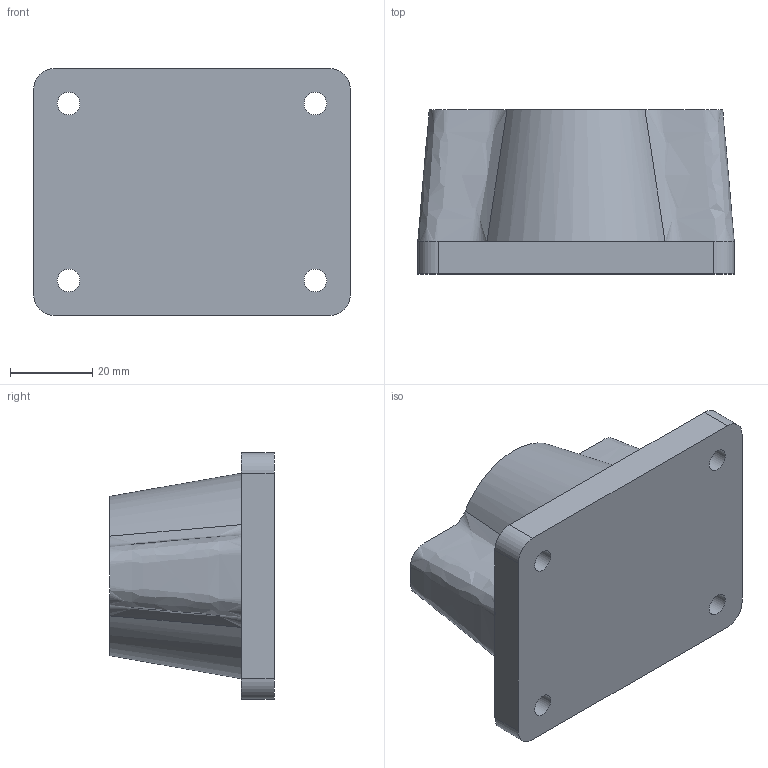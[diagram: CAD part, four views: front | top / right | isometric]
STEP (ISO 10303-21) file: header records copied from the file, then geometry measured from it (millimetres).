
FILE_DESCRIPTION( ( 'STEP AP214' ), '1' );
FILE_NAME( 'p:/temp/worker_16/temp/exporttempdir_4544_765_ZHe0R/format_0/105928 SCG 1.stp', '2021-05-11T08:23:21', ( 'License CC BY-ND 4.0' ), ( 'CADENAS' ), ' ', 'PARTsolutions', ' ' );
FILE_SCHEMA( ( 'AUTOMOTIVE_DESIGN { 1 0 10303 214 1 1 1 1 }' ) );
Length unit declared in the file: millimetre
Products named in the file (1): _105928 SCG 1
Bounding box: 77 x 40 x 60 mm (x, y, z)
Volume: 101940.4 mm3; surface area: 17083.7 mm2
Topology: 1 solids, 1 shells, 20 faces, 74 edges, 56 vertices
Faces by surface type: plane 8, cylinder 8, bspline 4
Full cylindrical faces by diameter (mm): 5.5 x4
Entity records: 1248 total; most frequent: CARTESIAN_POINT 493, ORIENTED_EDGE 140, DIRECTION 84, EDGE_CURVE 70, VERTEX_POINT 56, B_SPLINE_CURVE_WITH_KNOTS 36, AXIS2_PLACEMENT_3D 33, EDGE_LOOP 32
